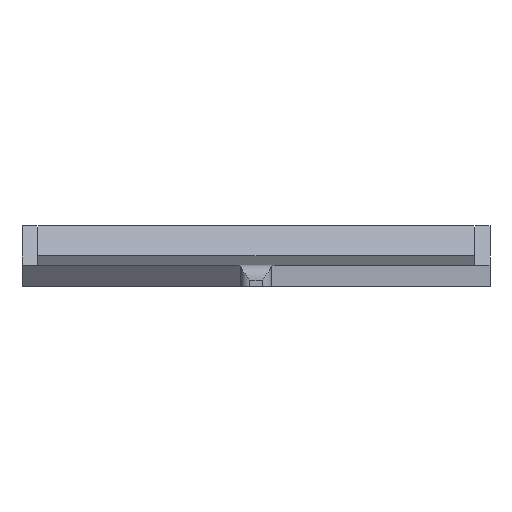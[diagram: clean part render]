
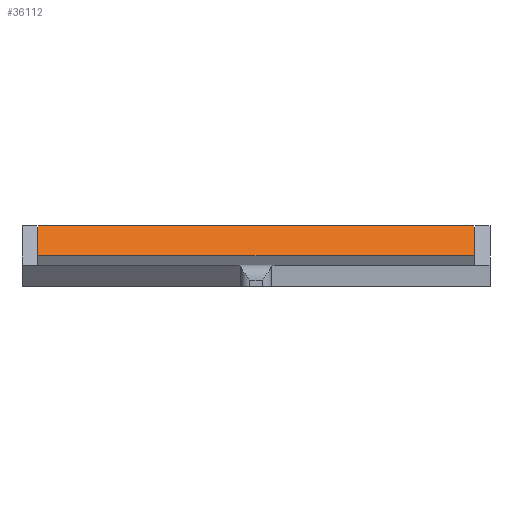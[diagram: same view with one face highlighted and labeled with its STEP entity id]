
A CAD part, left-side view. The second image highlights one B-rep face of the part: STEP entity #36112.
In plain terms, the highlighted planar face has unit normal (-0.866, 0, 0.5).
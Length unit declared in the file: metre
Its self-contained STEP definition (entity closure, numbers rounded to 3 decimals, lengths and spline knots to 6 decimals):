
#3780=ORIENTED_EDGE('',*,*,#13975,.T.);
#3781=ORIENTED_EDGE('',*,*,#13976,.T.);
#3782=ORIENTED_EDGE('',*,*,#13977,.T.);
#3783=ORIENTED_EDGE('',*,*,#13978,.T.);
#3784=ORIENTED_EDGE('',*,*,#13979,.F.);
#3785=ORIENTED_EDGE('',*,*,#13972,.F.);
#13972=EDGE_CURVE('',#19103,#19104,#22669,.T.);
#13975=EDGE_CURVE('',#19103,#19105,#22672,.T.);
#13976=EDGE_CURVE('',#19105,#19106,#22673,.F.);
#13977=EDGE_CURVE('',#19106,#19107,#22674,.T.);
#13978=EDGE_CURVE('',#19107,#19108,#22675,.F.);
#13979=EDGE_CURVE('',#19104,#19108,#22676,.T.);
#19103=VERTEX_POINT('',#55300);
#19104=VERTEX_POINT('',#55301);
#19105=VERTEX_POINT('',#55306);
#19106=VERTEX_POINT('',#55308);
#19107=VERTEX_POINT('',#55310);
#19108=VERTEX_POINT('',#55312);
#22669=LINE('',#55299,#27896);
#22672=LINE('',#55305,#27899);
#22673=LINE('',#55307,#27900);
#22674=LINE('',#55309,#27901);
#22675=LINE('',#55311,#27902);
#22676=LINE('',#55313,#27903);
#27896=VECTOR('',#43270,1.);
#27899=VECTOR('',#43275,1.);
#27900=VECTOR('',#43276,1.);
#27901=VECTOR('',#43277,1.);
#27902=VECTOR('',#43278,1.);
#27903=VECTOR('',#43279,1.);
#30297=EDGE_LOOP('',(#3780,#3781,#3782,#3783,#3784,#3785));
#32584=FACE_BOUND('',#30297,.T.);
#34347=PLANE('',#37911);
#36112=ADVANCED_FACE('',(#32584),#34347,.T.);
#37911=AXIS2_PLACEMENT_3D('',#55304,#43273,#43274);
#43270=DIRECTION('',(0.,1.,0.));
#43273=DIRECTION('',(-0.866,0.,0.5));
#43274=DIRECTION('',(-0.5,0.,-0.866));
#43275=DIRECTION('',(0.5,0.,0.866));
#43276=DIRECTION('',(-0.447,-0.447,-0.775));
#43277=DIRECTION('',(0.,1.,0.));
#43278=DIRECTION('',(0.447,-0.447,0.775));
#43279=DIRECTION('',(0.5,0.,0.866));
#55299=CARTESIAN_POINT('',(-0.005774,-0.005002,0.01));
#55300=CARTESIAN_POINT('',(-0.005774,-0.07217,0.01));
#55301=CARTESIAN_POINT('',(-0.005774,0.07217,0.01));
#55304=CARTESIAN_POINT('',(-0.002887,-0.005002,0.015));
#55305=CARTESIAN_POINT('',(-0.002887,-0.07217,0.015));
#55306=CARTESIAN_POINT('',(-0.000289,-0.07217,0.0195));
#55307=CARTESIAN_POINT('',(0.011066,-0.060815,0.039168));
#55308=CARTESIAN_POINT('',(0.,-0.071881,0.02));
#55309=CARTESIAN_POINT('',(0.,-0.005002,0.02));
#55310=CARTESIAN_POINT('',(0.,0.071881,0.02));
#55311=CARTESIAN_POINT('',(0.013067,0.058814,0.042633));
#55312=CARTESIAN_POINT('',(-0.000289,0.07217,0.0195));
#55313=CARTESIAN_POINT('',(-0.002887,0.07217,0.015));
